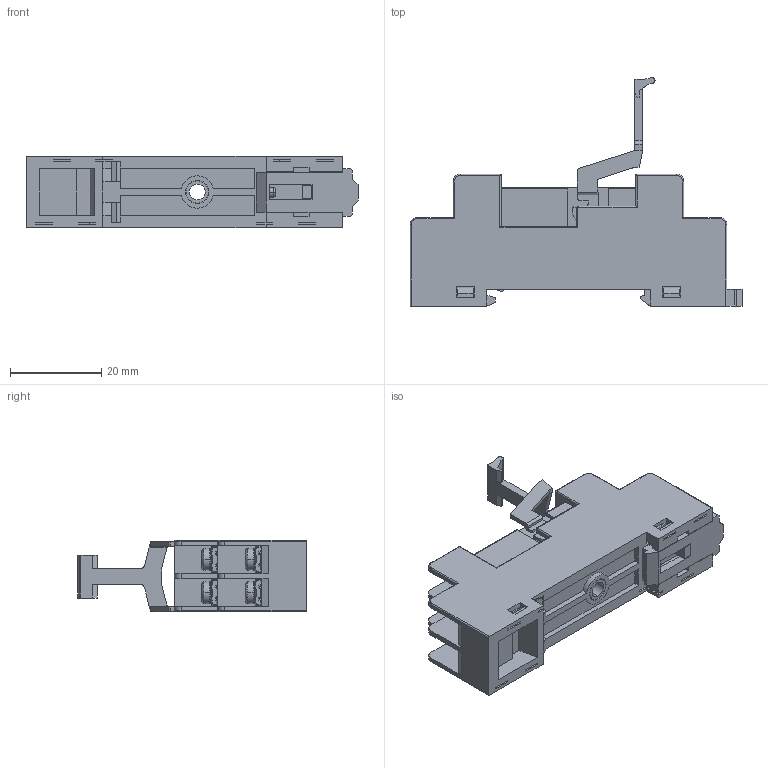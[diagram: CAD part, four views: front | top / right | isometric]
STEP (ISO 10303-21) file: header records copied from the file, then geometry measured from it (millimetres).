
FILE_DESCRIPTION (( 'STEP AP203' ), '1' );
FILE_NAME ('SRT08-A 俋倛.STEP', '2023-08-02T11:05:29', ( 'admin' ), ( '' ), 'SwSTEP 2.0', 'SolidWorks 2022', '' );
FILE_SCHEMA (( 'CONFIG_CONTROL_DESIGN' ));
Length unit declared in the file: millimetre
Products named in the file (1): SRT08-A 俋倛
Bounding box: 72.9 x 50.2 x 15.8 mm (x, y, z)
Volume: 19826.3 mm3; surface area: 12255.5 mm2
Topology: 1 solids, 1 shells, 2114 faces, 5762 edges, 3601 vertices
Faces by surface type: plane 861, cylinder 462, bspline 441, torus 188, cone 98, sphere 64
Entity records: 76891 total; most frequent: CARTESIAN_POINT 27741, ORIENTED_EDGE 11364, DIRECTION 8828, EDGE_CURVE 5682, VERTEX_POINT 3601, AXIS2_PLACEMENT_3D 3064, VECTOR 2700, LINE 2700
